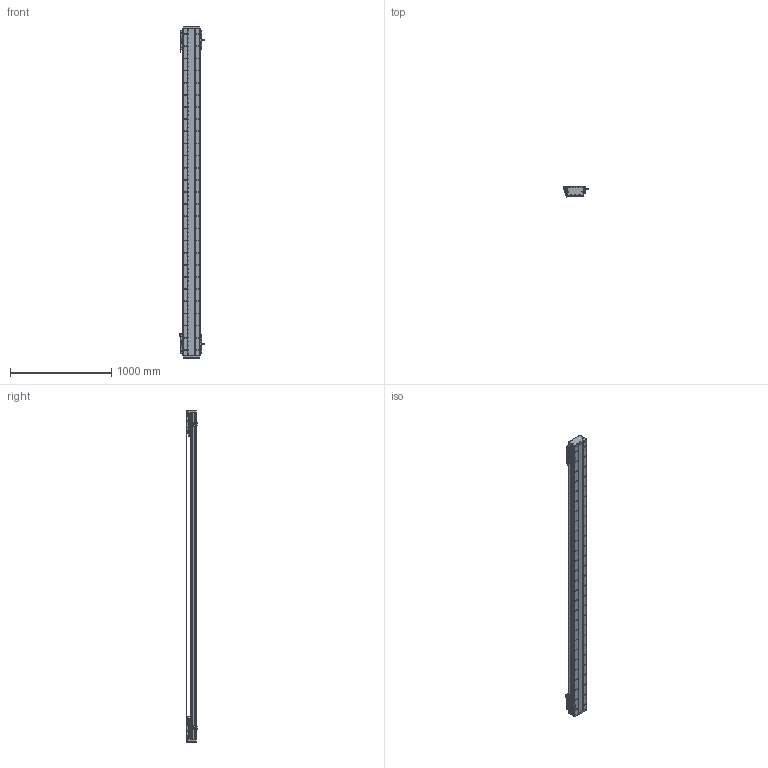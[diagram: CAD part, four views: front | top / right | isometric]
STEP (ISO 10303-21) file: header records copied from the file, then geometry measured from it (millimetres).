
FILE_DESCRIPTION (( 'STEP AP203' ), '1' );
FILE_NAME ('DA-C165-2-C2-T2780-C010-0.2 直线电机.STEP', '2023-05-11T08:31:28', ( '微软用户' ), ( '微软中国' ), 'SwSTEP 2.0', 'SolidWorks 2019', '' );
FILE_SCHEMA (( 'CONFIG_CONTROL_DESIGN' ));
Length unit declared in the file: millimetre
Products named in the file (22): DA-C165-2-C2-T2780-C010-0.2 眻盄萇儂; 葩璃 PM-Y45^DA-C165-C2-T-C010-0.2-N 眻盄萇儂; 复件 XD-U-02L 磁栅尺^DA-C165-C2-T-C010-0.2-N 直线电机_T; 复件 DA165-GD-DG-H-00 端盖^复件 CU165钢带组件_DA-C165-C2-T-C010-0.2-N 直线电机; 复件 DA126-GYP-ZJ-00 中间光电感应片^DA-C165-C2-T-C010-0.2-N 直线电机; 葩璃 PM-T45^DA-C165-C2-T-C010-0.2-N 眻盄萇儂; IU-CU165-L 菁釱絳寢; 复件 CKM02-W075-C1C2-TP-3.0 一体电机-C2^DA-C165-C2-T-C010-0.2-N 直线电机; 复件 DMA-010-0.2 读数头^DA-C165-C2-T-C010-0.2-N 直线电机; 复件 DA165-GYP-00 光电感应片^DA-C165-C2-T-C010-0.2-N 直线电机; 复件 DA165-GDYK-00 钢带压块^复件 CU165钢带组件_DA-C165-C2-T-C010-0.2-N 直线电机; 复件 DA165-GD-1860-002-00 钢带盖板^复件 CU165钢带组件_DA-C165-C2-T-C010-0.2-N 直线电机; 复件 CU165钢带组件^DA-C165-C2-T-C010-0.2-N 直线电机; 复件 DA95-HXJ-00 缓冲橡胶^DA-C165-C2-T-C010-0.2-N 直线电机; 复件 DKW-HXJ-JY-00 缓冲橡胶^DA-C165-C2-T-C010-0.2-N 直线电机; 葩璃 DA95-GT-T-00^IU-CU165-L 菁釱絳寢_T; 复件 六角薄螺母 M3^DA-C165-C2-T-C010-0.2-N 直线电机_GB_FASTENER_NUT_STNAB M3-C; 复件 66338-1000-006-00 光电感应块^DA-C165-C2-T-C010-0.2-N 直线电机; IU-CU165-L-00 菁釱_L3240; 复件 DA165-GDLK-00 钢带拉块^复件 CU165钢带组件_DA-C165-C2-T-C010-0.2-N 直线电机; 珨极趙賑雄怢啣wf-C2; 葩璃 CKM01-W075-TRL^DA-C165-C2-T-C010-0.2-N 眻盄萇儂
Assembly tree (43 placements, depth 3):
  DA-C165-2-C2-T2780-C010-0.2 眻盄萇儂
    IU-CU165-L 菁釱絳寢
      IU-CU165-L-00 菁釱_L3240
      葩璃 DA95-GT-T-00^IU-CU165-L 菁釱絳寢_T  x4
    复件 XD-U-02L 磁栅尺^DA-C165-C2-T-C010-0.2-N 直线电机_T
    葩璃 PM-T45^DA-C165-C2-T-C010-0.2-N 眻盄萇儂  x4
    葩璃 CKM01-W075-TRL^DA-C165-C2-T-C010-0.2-N 眻盄萇儂
    复件 CU165钢带组件^DA-C165-C2-T-C010-0.2-N 直线电机
      复件 DA165-GD-DG-H-00 端盖^复件 CU165钢带组件_DA-C165-C2-T-C010-0.2-N 直线电机  x2
      复件 DA165-GDYK-00 钢带压块^复件 CU165钢带组件_DA-C165-C2-T-C010-0.2-N 直线电机  x2
      复件 DA165-GD-1860-002-00 钢带盖板^复件 CU165钢带组件_DA-C165-C2-T-C010-0.2-N 直线电机
      复件 DA165-GDLK-00 钢带拉块^复件 CU165钢带组件_DA-C165-C2-T-C010-0.2-N 直线电机  x2
    复件 DA95-HXJ-00 缓冲橡胶^DA-C165-C2-T-C010-0.2-N 直线电机  x4
    复件 CKM02-W075-C1C2-TP-3.0 一体电机-C2^DA-C165-C2-T-C010-0.2-N 直线电机  x2
    复件 DMA-010-0.2 读数头^DA-C165-C2-T-C010-0.2-N 直线电机  x2
    复件 DA165-GYP-00 光电感应片^DA-C165-C2-T-C010-0.2-N 直线电机  x2
    复件 66338-1000-006-00 光电感应块^DA-C165-C2-T-C010-0.2-N 直线电机
    葩璃 PM-Y45^DA-C165-C2-T-C010-0.2-N 眻盄萇儂
    复件 DA126-GYP-ZJ-00 中间光电感应片^DA-C165-C2-T-C010-0.2-N 直线电机
    复件 DKW-HXJ-JY-00 缓冲橡胶^DA-C165-C2-T-C010-0.2-N 直线电机  x2
    复件 六角薄螺母 M3^DA-C165-C2-T-C010-0.2-N 直线电机_GB_FASTENER_NUT_STNAB M3-C  x6
    珨极趙賑雄怢啣wf-C2  x2
Bounding box: 247.2 x 111.45 x 3280 mm (x, y, z)
Volume: 19322589.9 mm3; surface area: 5702261.7 mm2
Topology: 119 solids, 119 shells, 5975 faces, 17088 edges, 10834 vertices
Faces by surface type: cylinder 3356, plane 1827, cone 704, torus 80, sphere 8
Entity records: 152190 total; most frequent: CARTESIAN_POINT 42083, ORIENTED_EDGE 23120, DIRECTION 21924, EDGE_CURVE 11560, AXIS2_PLACEMENT_3D 8362, VERTEX_POINT 7571, EDGE_LOOP 5235, LINE 5200
